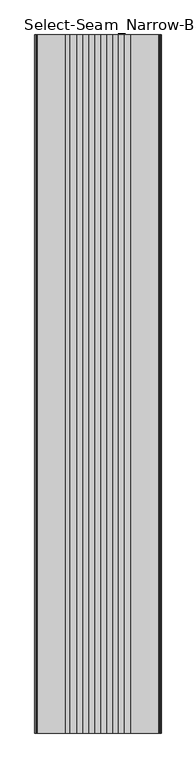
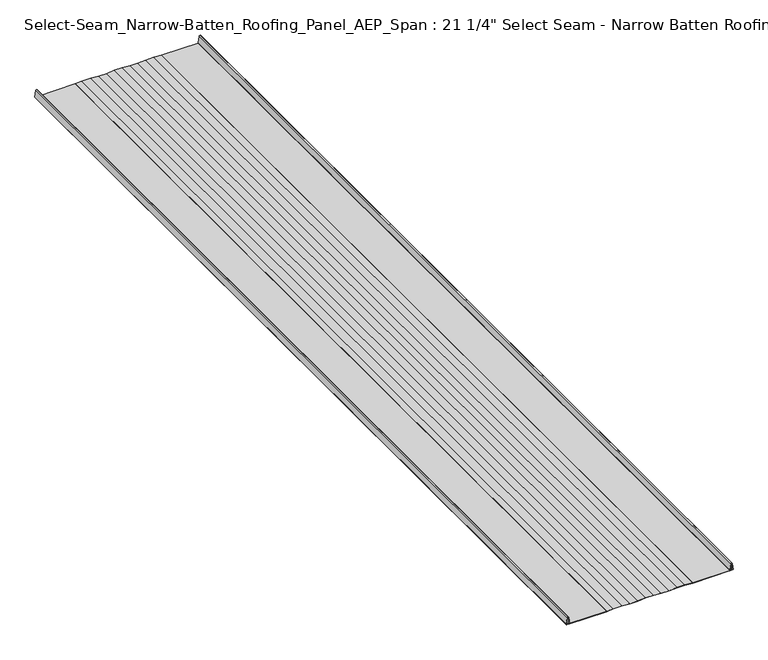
"""IFC4 building model written with IfcOpenShell, lengths in millimetres: proxy geometry."""

from ifc_helpers import new_model, si_unit, point, frame, frame_2d, origin, place, context, project, spatial, polyline, circle_curve, trimmed, segment, composite_curve, outline, extrude, source, transform, mapped, element, save


def proxy_80b159a8(model_context):
    return source(origin(), model_context, "Body", "SweptSolid", [
        extrude(outline(composite_curve([segment(polyline([(3.7394555, -274.6058914), (4.2086083, -275.2528907), (1.4041547, -277.2216896), (23.3725009, -274.0277157)]), True, "CONTINUOUS"), segment(trimmed(circle_curve(frame_2d((23.3246979, -272.1534885)), 1.8748367), [point((23.3725009, -274.0277157))], [point((23.8974513, -270.3682809))], True, "CARTESIAN"), True, "CONTINUOUS"), segment(polyline([(23.8974513, -270.3682809), (1.4145788, -266.7893475), (4.2479637, -268.7411718), (3.760774, -269.4130454), (0.8517975, -267.3036855)]), True, "CONTINUOUS"), segment(trimmed(circle_curve(frame_2d((1.7810778, -267.0605977)), 0.9605486), [point((0.8517975, -267.3036855))], [point((1.8542575, -266.1028408))], False, "CARTESIAN"), True, "CONTINUOUS"), segment(polyline([(1.8542575, -266.1028408), (24.0639992, -269.6386306)]), True, "CONTINUOUS"), segment(trimmed(circle_curve(frame_2d((23.3206239, -272.153222)), 2.6221702), [point((24.0639992, -269.6386306))], [point((23.9569589, -274.6970094))], False, "CARTESIAN"), True, "CONTINUOUS"), segment(polyline([(23.9569589, -274.6970094), (1.8070914, -277.9177208)]), True, "CONTINUOUS"), segment(trimmed(circle_curve(frame_2d((1.7597593, -276.9583391)), 0.9605486), [point((1.8070914, -277.9177208))], [point((0.830479, -276.7152512))], False, "CARTESIAN"), True, "CONTINUOUS"), segment(polyline([(0.830479, -276.7152512), (3.7394555, -274.6058914)]), True, "CONTINUOUS")], self_intersect=False)), frame((0.0, -3048.0, 0.0), z_axis=(0.0, 1.0, 0.0), x_axis=(0.0, 0.0, 1.0)), (0.0, 0.0, 1.0), 3048.0),
        extrude(outline(composite_curve([segment(polyline([(3.760774, 266.2381964), (4.2227917, 265.6010369), (1.4139813, 263.6140652), (23.3342898, 267.1034626)]), True, "CONTINUOUS"), segment(trimmed(circle_curve(frame_2d((23.325029, 268.9780985)), 1.8746588), [point((23.3342898, 267.1034626))], [point((23.81023, 270.7888789))], True, "CARTESIAN"), True, "CONTINUOUS"), segment(polyline([(23.81023, 270.7888789), (1.4046757, 274.0464628), (4.2079011, 272.0770664), (3.7394555, 271.4310424), (0.830479, 273.5404022)]), True, "CONTINUOUS"), segment(trimmed(circle_curve(frame_2d((1.7597593, 273.7834901)), 0.9605486), [point((0.830479, 273.5404022))], [point((1.9876092, 274.7166235))], False, "CARTESIAN"), True, "CONTINUOUS"), segment(polyline([(1.9876092, 274.7166235), (23.9569589, 271.5221604)]), True, "CONTINUOUS"), segment(trimmed(circle_curve(frame_2d((23.3206239, 268.9783729)), 2.6221702), [point((23.9569589, 271.5221604))], [point((24.0639992, 266.4637816))], False, "CARTESIAN"), True, "CONTINUOUS"), segment(polyline([(24.0639992, 266.4637816), (1.8542575, 262.9279917)]), True, "CONTINUOUS"), segment(trimmed(circle_curve(frame_2d((1.7810778, 263.8857486)), 0.9605486), [point((1.8542575, 262.9279917))], [point((0.8517975, 264.1288365))], False, "CARTESIAN"), True, "CONTINUOUS"), segment(polyline([(0.8517975, 264.1288365), (3.760774, 266.2381964)]), True, "CONTINUOUS")], self_intersect=False)), frame((0.0, -3048.0, 0.0), z_axis=(0.0, 1.0, 0.0), x_axis=(0.0, 0.0, 1.0)), (0.0, 0.0, 1.0), 3048.0),
        extrude(outline(polyline([(2.1488696, 115.1192185), (0.0, 141.0540291), (0.7815562, 141.0540291), (2.8956296, 115.1501025), (2.8956296, 89.1535238), (0.74676, 63.2187132), (0.74676, 37.3456707), (2.8956296, 11.41086), (2.8956296, -14.5857187), (0.74676, -40.5205293), (0.74676, -66.3935718), (2.8956296, -92.3283824), (2.8956296, -122.8128917), (0.7815609, -144.2288878), (0.0, -144.2288878), (2.1488696, -122.7755854), (2.1488696, -92.3592665), (0.0, -66.4244559), (0.0, -40.4896453), (2.1488696, -14.5548346), (2.1488696, 11.379976), (0.0, 37.3147866), (0.0, 63.2495972), (2.1488696, 89.1844078), (2.1488696, 115.1192185)])), frame((0.0, -3048.0, 0.0), z_axis=(0.0, 1.0, 0.0), x_axis=(0.0, 0.0, 1.0)), (0.0, 0.0, 1.0), 3048.0),
        extrude(outline(composite_curve([segment(polyline([(0.9605486, 268.2875707), (22.4631926, 268.2875707), (22.4631926, 267.5052507), (0.78232, 267.5052507), (0.78232, 141.0540291), (0.0, 141.0540291), (0.0, 267.3270221)]), True, "CONTINUOUS"), segment(trimmed(circle_curve(frame_2d((0.9605486, 267.3270221)), 0.9605486), [point((0.0, 267.3270221))], [point((0.9605486, 268.2875707))], False, "CARTESIAN"), True, "CONTINUOUS")], self_intersect=False)), frame((0.0, -3048.0, 0.0), z_axis=(0.0, 1.0, 0.0), x_axis=(0.0, 0.0, 1.0)), (0.0, 0.0, 1.0), 3048.0),
        extrude(outline(composite_curve([segment(polyline([(22.4631926, -271.4624293), (0.9605486, -271.4624293)]), True, "CONTINUOUS"), segment(trimmed(circle_curve(frame_2d((0.9605486, -270.5018808)), 0.9605486), [point((0.9605486, -271.4624293))], [point((0.0, -270.5018808))], False, "CARTESIAN"), True, "CONTINUOUS"), segment(polyline([(0.0, -270.5018808), (0.0, -144.2288878), (0.78232, -144.2288878), (0.78232, -270.6800997), (22.4631926, -270.6800997), (22.4631926, -271.4624293)]), True, "CONTINUOUS")], self_intersect=False)), frame((0.0, -3048.0, 0.0), z_axis=(0.0, 1.0, 0.0), x_axis=(0.0, 0.0, 1.0)), (0.0, 0.0, 1.0), 3048.0),
    ])


if __name__ == "__main__":
    model = new_model("IFC4")
    model_context = context("Model", 3, world=origin())
    ifc_project = project(units=[si_unit("LENGTHUNIT", "METRE", prefix="MILLI")], contexts=[model_context])
    site = spatial("IfcSite", under=ifc_project)
    building = spatial("IfcBuilding", under=site)
    placement = place(None, origin())
    proxy_shape = proxy_80b159a8(model_context)
    element("IfcBuildingElementProxy", 1, Name="Select-Seam_Narrow-Batten_Roofing_Panel_AEP_Span : 21 1/4\" Select Seam - Narrow Batten Roofing - 22ga", ObjectType="Select-Seam_Narrow-Batten_Roofing_Panel_AEP_Span : 21 1/4\" Select Seam - Narrow Batten Roofing - 22ga", at=placement, inside=building, context=model_context, shape_type="MappedRepresentation", body=[
        mapped(proxy_shape, transform((0.0, 0.0, 0.0), x_axis=(1.0, 0.0, 0.0), y_axis=(0.0, 1.0, 0.0), z_axis=(0.0, 0.0, 1.0))),
    ])
    save(model, "model.ifc")
